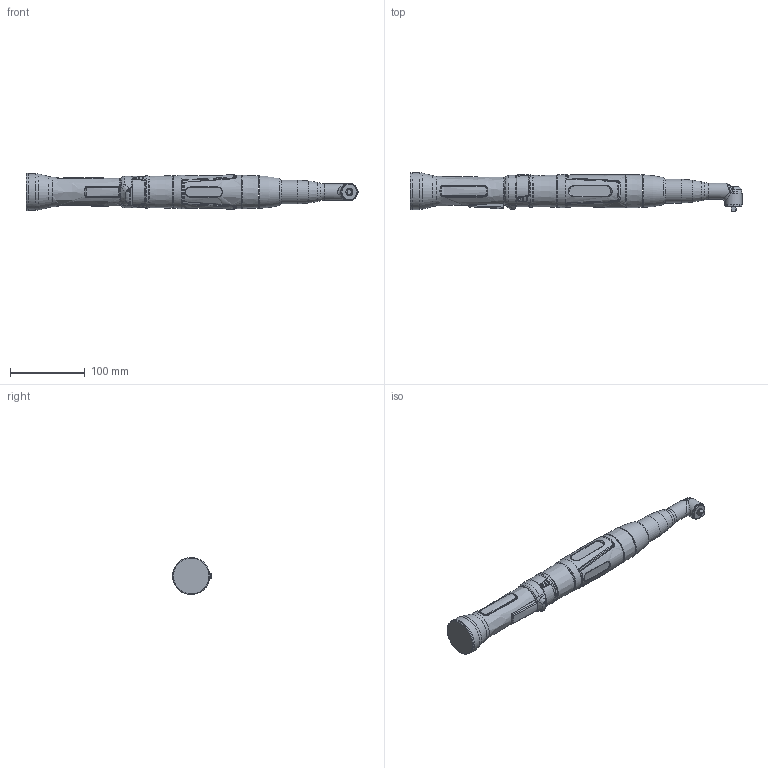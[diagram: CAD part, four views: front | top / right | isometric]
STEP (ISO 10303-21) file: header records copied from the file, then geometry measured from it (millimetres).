
FILE_DESCRIPTION (( 'STEP AP214' ), '1' );
FILE_NAME ('70058335_HSX1015WV14.STEP', '2016-11-16T13:28:19', ( 'admin' ), ( '' ), 'SwSTEP 2.0', 'SolidWorks 2014', '' );
FILE_SCHEMA (( 'AUTOMOTIVE_DESIGN' ));
Length unit declared in the file: millimetre
Products named in the file (1): 70058335_HSX1015WV14
Bounding box: 444.1 x 53.15 x 49.5 mm (x, y, z)
Volume: 481360.5 mm3; surface area: 77381.5 mm2
Topology: 4 solids, 4 shells, 961 faces, 2334 edges, 1363 vertices
Faces by surface type: bspline 362, cylinder 230, plane 171, torus 133, cone 35, sphere 30
Full cylindrical faces by diameter (mm): 1.7 x2, 1.9 x1, 4 x1, 21.5 x1, 23 x2, 31.7 x1, 38 x1, 39 x1, 39.5 x1, 40.5 x1, 42 x2, 43.3 x1, 43.5 x1, 49.5 x1
Entity records: 43063 total; most frequent: CARTESIAN_POINT 21514, ORIENTED_EDGE 4410, DIRECTION 3340, EDGE_CURVE 2205, AXIS2_PLACEMENT_3D 1409, VERTEX_POINT 1329, EDGE_LOOP 1054, FACE_OUTER_BOUND 1011
